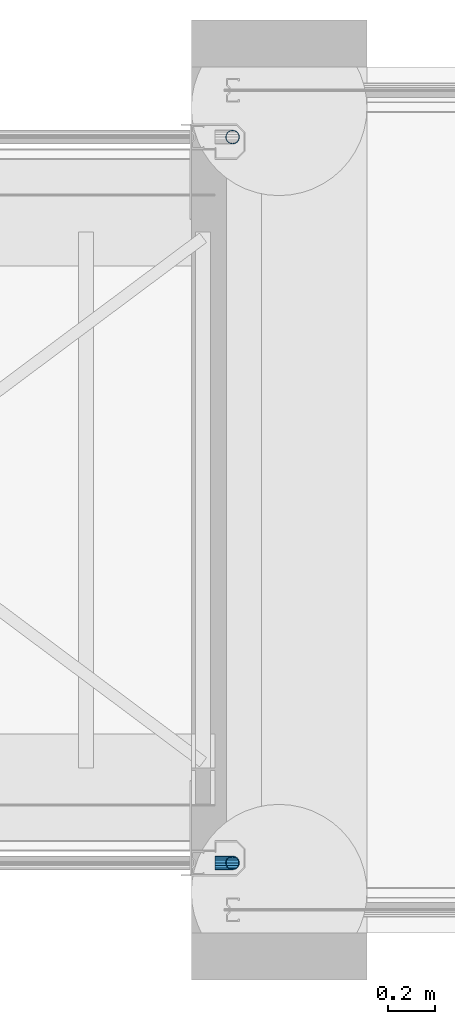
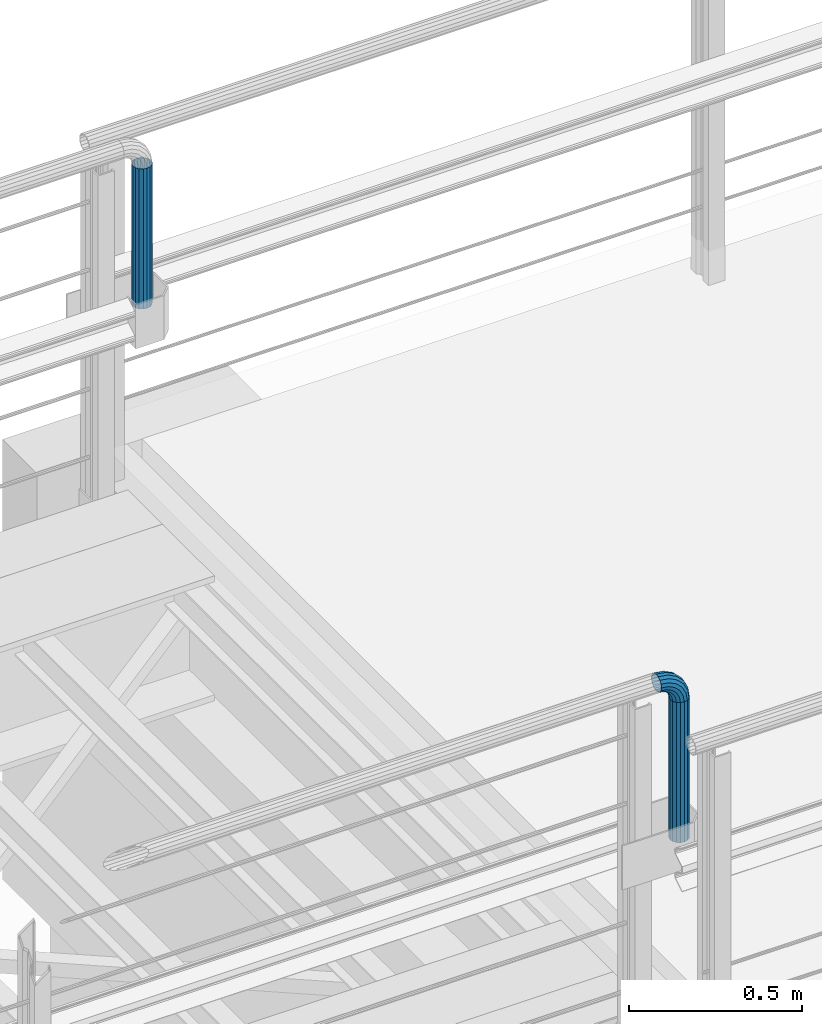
# One storey, part 24 of 31: 3 beams.
"""IFC2X3 building model written with IfcOpenShell, lengths in millimetres."""

from ifc_helpers import new_model, si_unit, frame, origin_with_axes, place, context, subcontext, project, spatial, faceted_brep, material, type_object, element, save


model = new_model("IFC2X3")

# Units and contexts
model_context = context("Model", 3, precision=1e-05, world=origin_with_axes())
body_context = subcontext(model_context, "Body", "Model", "MODEL_VIEW")
ifc_project = project(units=[si_unit("LENGTHUNIT", "METRE", prefix="MILLI"), si_unit("AREAUNIT", "SQUARE_METRE"), si_unit("VOLUMEUNIT", "CUBIC_METRE"), si_unit("MASSUNIT", "GRAM", prefix="KILO"), si_unit("TIMEUNIT", "SECOND"), si_unit("PLANEANGLEUNIT", "RADIAN"), si_unit("SOLIDANGLEUNIT", "STERADIAN"), si_unit("THERMODYNAMICTEMPERATUREUNIT", "DEGREE_CELSIUS"), si_unit("LUMINOUSINTENSITYUNIT", "LUMEN")], contexts=[model_context])

# Site, building, storey
site_placement = place(None, origin_with_axes())
site = spatial("IfcSite", under=ifc_project, at=site_placement, Name="Undefined", CompositionType="ELEMENT")
building_placement = place(site_placement, origin_with_axes())
building = spatial("IfcBuilding", under=site, at=building_placement, Name="Undefined", CompositionType="ELEMENT")
storey_placement = place(building_placement, origin_with_axes())
storey = spatial("IfcBuildingStorey", under=building, at=storey_placement, Name="Undefined", CompositionType="ELEMENT", Elevation=0.0)

# Beams
ifc_material = material(Name="STEEL/S355J2+N")
beam_type = type_object("IfcBeamType", Name="CFCHS60.3*3.2", PredefinedType="NOTDEFINED")
beam_1_placement = place(storey_placement, frame((19576.0, -400.0, 1093.85), z_axis=(0.0, -1.0, 0.0), x_axis=(0.0, 0.0, -1.0)))
element("IfcBeam", 1, at=beam_1_placement, inside=storey, type_object=beam_type, material=ifc_material, Name="REKKVERK", context=body_context, shape_type="Brep", body=[
    faceted_brep([(0.0, -26.95, 0.0), (0.0, -24.898553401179, 10.3133185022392), (493.85, -24.8985534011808, 10.3133185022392), (493.85, -26.9500000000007, 0.0), (0.0, -19.0565277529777, 19.0565277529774), (493.85, -19.0565277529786, 19.0565277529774), (0.0, -10.3133185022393, 24.8985534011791), (493.85, -10.313318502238, 24.8985534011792), (0.0, 0.0, 26.95), (493.85, 0.0, 26.95), (0.0, 10.3133185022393, 24.8985534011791), (493.85, 10.313318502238, 24.8985534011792), (0.0, 19.0565277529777, 19.0565277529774), (493.85, 19.0565277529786, 19.0565277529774), (0.0, 24.898553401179, 10.3133185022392), (493.85, 24.8985534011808, 10.3133185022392), (0.0, 26.95, 0.0), (493.85, 26.9500000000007, 0.0), (0.0, 24.898553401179, -10.3133185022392), (493.85, 24.8985534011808, -10.3133185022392), (0.0, 19.0565277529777, -19.0565277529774), (493.85, 19.0565277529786, -19.0565277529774), (0.0, 10.3133185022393, -24.8985534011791), (493.85, 10.313318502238, -24.8985534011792), (0.0, 0.0, -26.95), (493.85, 0.0, -26.95), (0.0, -10.3133185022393, -24.8985534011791), (493.85, -10.313318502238, -24.8985534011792), (0.0, -19.0565277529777, -19.0565277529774), (493.85, -19.0565277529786, -19.0565277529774), (0.0, -24.898553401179, -10.3133185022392), (493.85, -24.8985534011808, -10.3133185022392), (0.0, -30.15, 0.0), (0.0, -27.8549679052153, -11.5379054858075), (493.85, -27.8549679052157, -11.5379054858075), (493.85, -30.1500000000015, 0.0), (0.0, -21.3192694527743, -21.3192694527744), (493.85, -21.3192694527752, -21.3192694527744), (0.0, -11.5379054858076, -27.8549679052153), (493.85, -11.5379054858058, -27.8549679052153), (0.0, 0.0, -30.15), (493.85, 0.0, -30.15), (0.0, 11.5379054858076, -27.8549679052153), (493.85, 11.5379054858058, -27.8549679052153), (0.0, 21.3192694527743, -21.3192694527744), (493.85, 21.3192694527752, -21.3192694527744), (0.0, 27.8549679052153, -11.5379054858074), (493.85, 27.8549679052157, -11.5379054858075), (0.0, 30.15, 0.0), (493.85, 30.1500000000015, 0.0), (0.0, 27.8549679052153, 11.5379054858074), (493.85, 27.8549679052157, 11.5379054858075), (0.0, 21.3192694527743, 21.3192694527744), (493.85, 21.3192694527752, 21.3192694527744), (0.0, 11.5379054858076, 27.8549679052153), (493.85, 11.5379054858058, 27.8549679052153), (0.0, 0.0, 30.15), (493.85, 0.0, 30.15), (0.0, -11.5379054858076, 27.8549679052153), (493.85, -11.5379054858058, 27.8549679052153), (0.0, -21.3192694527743, 21.3192694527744), (493.85, -21.3192694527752, 21.3192694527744), (0.0, -27.8549679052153, 11.5379054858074), (493.85, -27.8549679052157, 11.5379054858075)], [[[0, 1, 2, 3]], [[1, 4, 5, 2]], [[4, 6, 7, 5]], [[6, 8, 9, 7]], [[8, 10, 11, 9]], [[10, 12, 13, 11]], [[12, 14, 15, 13]], [[14, 16, 17, 15]], [[16, 18, 19, 17]], [[18, 20, 21, 19]], [[20, 22, 23, 21]], [[22, 24, 25, 23]], [[24, 26, 27, 25]], [[26, 28, 29, 27]], [[28, 30, 31, 29]], [[30, 0, 3, 31]], [[32, 33, 34, 35]], [[33, 36, 37, 34]], [[36, 38, 39, 37]], [[38, 40, 41, 39]], [[40, 42, 43, 41]], [[42, 44, 45, 43]], [[44, 46, 47, 45]], [[46, 48, 49, 47]], [[48, 50, 51, 49]], [[50, 52, 53, 51]], [[52, 54, 55, 53]], [[54, 56, 57, 55]], [[56, 58, 59, 57]], [[58, 60, 61, 59]], [[60, 62, 63, 61]], [[62, 32, 35, 63]], [[37, 39, 41, 43, 45, 47, 49, 51, 53, 55, 57, 59, 61, 63, 35, 34], [5, 7, 9, 11, 13, 15, 17, 19, 21, 23, 25, 27, 29, 31, 3, 2]], [[62, 60, 58, 56, 54, 52, 50, 48, 46, 44, 42, 40, 38, 36, 33, 32], [30, 28, 26, 24, 22, 20, 18, 16, 14, 12, 10, 8, 6, 4, 1, 0]]]),
])
beam_2_placement = place(storey_placement, frame((19500.0, -400.0, 1169.85), z_axis=(1.0, 0.0, 0.0), x_axis=(0.0, 0.0, -1.0)))
element("IfcBeam", 2, at=beam_2_placement, inside=storey, type_object=beam_type, material=ifc_material, Name="REKKVERK", context=body_context, shape_type="Brep", body=[
    faceted_brep([(11.5379054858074, -27.8549679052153, 0.0), (21.3192694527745, -21.3192694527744, 0.0), (23.9955348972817, -21.3192694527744, 16.8972750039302), (14.6929049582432, -27.8549679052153, 19.9198826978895), (31.7623597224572, -21.3192694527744, 32.1405270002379), (23.8490700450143, -27.8549679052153, 37.8898684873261), (43.8594729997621, -21.3192694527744, 44.2376402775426), (38.1101315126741, -27.8549679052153, 52.1509299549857), (59.10272499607, -21.3192694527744, 52.0044651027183), (56.0801173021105, -27.8549679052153, 61.3070950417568), (47.7010601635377, -11.5379054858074, 38.9501491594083), (61.1223668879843, -11.5379054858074, 45.7886465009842), (37.0498508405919, -11.5379054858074, 28.2989398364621), (30.2113534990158, -11.5379054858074, 14.8776331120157), (27.8549679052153, -11.5379054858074, 0.0), (30.1500000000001, 0.0, 0.0), (32.3940587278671, 0.0, 14.1684291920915), (38.9065708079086, 0.0, 26.9499538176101), (49.0500461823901, 0.0, 37.0934291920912), (61.8315708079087, 0.0, 43.6059412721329), (47.7010601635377, 11.5379054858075, 38.9501491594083), (61.1223668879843, 11.5379054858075, 45.7886465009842), (37.0498508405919, 11.5379054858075, 28.2989398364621), (30.2113534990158, 11.5379054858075, 14.8776331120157), (27.8549679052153, 11.5379054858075, 0.0), (21.3192694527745, 21.3192694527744, 0.0), (23.9955348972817, 21.3192694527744, 16.8972750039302), (31.7623597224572, 21.3192694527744, 32.1405270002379), (43.8594729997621, 21.3192694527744, 44.2376402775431), (59.10272499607, 21.3192694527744, 52.0044651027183), (38.1101315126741, 27.8549679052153, 52.1509299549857), (56.0801173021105, 27.8549679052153, 61.3070950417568), (23.8490700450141, 27.8549679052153, 37.8898684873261), (14.6929049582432, 27.8549679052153, 19.9198826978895), (11.5379054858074, 27.8549679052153, 0.0), (0.0, 30.15, 0.0), (3.71970476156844, 30.15, 23.485291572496), (14.514708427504, 30.15, 44.6716791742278), (31.3283208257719, 30.15, 61.485291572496), (52.514708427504, 30.15, 72.2802952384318), (24.54651013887, 27.8549679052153, 70.8196531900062), (48.9492995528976, 27.8549679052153, 83.2534954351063), (5.18034680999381, 27.8549679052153, 51.45348986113), (-7.25349543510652, 27.8549679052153, 27.0507004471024), (-11.5379054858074, 27.8549679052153, 0.0), (-21.3192694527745, 21.3192694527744, 0.0), (-16.556125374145, 21.3192694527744, 30.0733081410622), (-2.73294286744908, 21.3192694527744, 57.2028313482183), (18.7971686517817, 21.3192694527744, 78.7329428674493), (45.9266918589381, 21.3192694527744, 92.5561253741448), (14.9555814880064, 11.5379054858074, 84.0204339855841), (43.9070499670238, 11.5379054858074, 98.7719439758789), (-8.02043398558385, 11.5379054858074, 61.0444185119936), (-22.7719439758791, 11.5379054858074, 32.0929500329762), (-27.8549679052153, 11.5379054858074, 0.0), (-30.1500000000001, 0.0, 0.0), (-24.9546492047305, 0.0, 32.8021539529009), (-9.8771539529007, 0.0, 62.3934045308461), (13.6065954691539, 0.0, 85.8771539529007), (43.1978460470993, 0.0, 100.954649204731), (14.9555814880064, -11.5379054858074, 84.0204339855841), (43.9070499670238, -11.5379054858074, 98.7719439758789), (-8.02043398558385, -11.5379054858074, 61.0444185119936), (-22.7719439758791, -11.5379054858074, 32.0929500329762), (-27.8549679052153, -11.5379054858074, 0.0), (-21.3192694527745, -21.3192694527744, 0.0), (-16.556125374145, -21.3192694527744, 30.0733081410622), (-2.73294286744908, -21.3192694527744, 57.2028313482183), (18.7971686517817, -21.3192694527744, 78.7329428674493), (45.9266918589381, -21.3192694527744, 92.5561253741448), (24.54651013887, -27.8549679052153, 70.8196531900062), (48.9492995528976, -27.8549679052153, 83.2534954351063), (5.18034680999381, -27.8549679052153, 51.45348986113), (-7.25349543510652, -27.8549679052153, 27.0507004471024), (-11.5379054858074, -27.8549679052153, 0.0), (0.0, -30.15, 0.0), (3.71970476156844, -30.15, 23.485291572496), (14.514708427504, -30.15, 44.6716791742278), (31.3283208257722, -30.15, 61.485291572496), (52.514708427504, -30.15, 72.2802952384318), (76.0, -30.15, 76.0), (76.0, -27.8549679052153, 87.5379054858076), (76.0, -21.3192694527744, 97.3192694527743), (76.0, -11.5379054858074, 103.854967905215), (76.0, 0.0, 106.15), (76.0, 11.5379054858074, 103.854967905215), (76.0, 21.3192694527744, 97.3192694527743), (76.0, 27.8549679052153, 87.5379054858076), (76.0, 30.15, 76.0), (76.0, 27.8549679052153, 64.4620945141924), (76.0, 21.3192694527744, 54.6807305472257), (76.0, 11.5379054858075, 48.1450320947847), (76.0, 0.0, 45.8499999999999), (76.0, -11.5379054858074, 48.1450320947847), (76.0, -21.3192694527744, 54.6807305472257), (76.0, -27.8549679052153, 64.4620945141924), (10.3133185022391, -24.8985534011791, 0.0), (19.0565277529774, -19.0565277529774, 0.0), (24.8985534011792, -10.3133185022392, 0.0), (26.95, 0.0, 0.0), (24.8985534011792, 10.3133185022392, 0.0), (19.0565277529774, 19.0565277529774, 0.0), (10.3133185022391, 24.8985534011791, 0.0), (0.0, 26.95, 0.0), (-10.3133185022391, 24.8985534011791, 0.0), (-19.0565277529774, 19.0565277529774, 0.0), (-24.8985534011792, 10.3133185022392, 0.0), (-26.95, 0.0, 0.0), (-24.8985534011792, -10.3133185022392, 0.0), (-19.0565277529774, -19.0565277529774, 0.0), (-10.3133185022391, -24.8985534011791, 0.0), (0.0, -26.95, 0.0), (3.71970476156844, -26.95, 23.485291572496), (13.5282535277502, -24.8985534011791, 20.2983008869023), (21.8435396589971, -19.0565277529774, 17.5965006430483), (27.3996362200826, -10.3133185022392, 15.7912154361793), (29.3506778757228, 0.0, 15.1572835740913), (27.3996362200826, 10.3133185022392, 15.7912154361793), (21.8435396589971, 19.0565277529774, 17.5965006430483), (13.5282535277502, 24.8985534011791, 20.2983008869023), (3.71970476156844, 26.95, 23.485291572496), (-6.08884400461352, 24.8985534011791, 26.6722822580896), (-14.4041301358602, 19.0565277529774, 29.374082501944), (-19.9602266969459, 10.3133185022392, 31.1793677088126), (-21.9112683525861, 0.0, 31.8132995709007), (-19.9602266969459, -10.3133185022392, 31.1793677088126), (-14.4041301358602, -19.0565277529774, 29.374082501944), (-6.08884400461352, -24.8985534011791, 26.6722822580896), (6.17105849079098, -24.8985534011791, 50.7336956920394), (14.514708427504, -26.95, 44.6716791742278), (22.8583583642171, -24.8985534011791, 38.6096626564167), (29.9317632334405, -19.0565277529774, 33.4705332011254), (34.6580612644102, -10.3133185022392, 30.0366766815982), (36.3177164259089, 0.0, 28.8308666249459), (34.6580612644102, 10.3133185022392, 30.0366766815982), (29.9317632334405, 19.0565277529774, 33.4705332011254), (22.8583583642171, 24.8985534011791, 38.6096626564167), (14.514708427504, 26.95, 44.6716791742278), (6.17105849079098, 24.8985534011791, 50.7336956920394), (-0.90234637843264, 19.0565277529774, 55.8728251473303), (-5.62864440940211, 10.3133185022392, 59.3066816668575), (-7.28829957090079, 0.0, 60.5124917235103), (-5.62864440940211, -10.3133185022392, 59.3066816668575), (-0.90234637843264, -19.0565277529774, 55.8728251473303), (20.1271748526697, -19.0565277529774, 76.9023463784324), (25.2663043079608, -24.8985534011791, 69.828941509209), (31.3283208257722, -26.95, 61.485291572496), (37.3903373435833, -24.8985534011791, 53.1416416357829), (42.5294667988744, -19.0565277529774, 46.0682367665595), (45.9633233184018, -10.3133185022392, 41.3419387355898), (47.1691333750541, 0.0, 39.6822835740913), (45.9633233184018, 10.3133185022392, 41.3419387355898), (42.5294667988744, 19.0565277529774, 46.0682367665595), (37.3903373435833, 24.8985534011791, 53.1416416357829), (31.3283208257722, 26.95, 61.485291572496), (25.2663043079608, 24.8985534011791, 69.828941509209), (20.1271748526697, 19.0565277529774, 76.9023463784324), (16.6933183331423, 10.3133185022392, 81.6286444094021), (15.48750827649, 0.0, 83.288299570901), (16.6933183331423, -10.3133185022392, 81.6286444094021), (44.8206322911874, -10.3133185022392, 95.9602266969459), (46.6259174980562, -19.0565277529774, 90.4041301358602), (49.3277177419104, -24.8985534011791, 82.0888440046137), (52.514708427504, -26.95, 72.2802952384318), (55.7016991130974, -24.8985534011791, 62.4717464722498), (58.4034993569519, -19.0565277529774, 54.1564603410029), (60.2087845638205, -10.3133185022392, 48.6003637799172), (60.8427164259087, 0.0, 46.6493221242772), (60.2087845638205, 10.3133185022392, 48.6003637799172), (58.4034993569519, 19.0565277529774, 54.1564603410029), (55.7016991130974, 24.8985534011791, 62.4717464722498), (52.514708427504, 26.95, 72.2802952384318), (49.3277177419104, 24.8985534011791, 82.0888440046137), (46.6259174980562, 19.0565277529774, 90.4041301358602), (44.8206322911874, 10.3133185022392, 95.9602266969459), (44.1867004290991, 0.0, 97.9112683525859), (76.0, 0.0, 102.95), (76.0, -10.3133185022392, 100.898553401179), (76.0, -19.0565277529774, 95.0565277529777), (76.0, -24.8985534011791, 86.3133185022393), (76.0, -26.95, 76.0), (76.0, -24.8985534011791, 65.6866814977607), (76.0, -19.0565277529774, 56.9434722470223), (76.0, -10.3133185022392, 51.101446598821), (76.0, 0.0, 49.0500000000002), (76.0, 10.3133185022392, 51.101446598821), (76.0, 19.0565277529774, 56.9434722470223), (76.0, 24.8985534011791, 65.6866814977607), (76.0, 26.95, 76.0), (76.0, 24.8985534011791, 86.3133185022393), (76.0, 19.0565277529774, 95.0565277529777), (76.0, 10.3133185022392, 100.898553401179)], [[[0, 1, 2, 3]], [[3, 2, 4, 5]], [[5, 4, 6, 7]], [[7, 6, 8, 9]], [[6, 10, 11, 8]], [[4, 12, 10, 6]], [[2, 13, 12, 4]], [[1, 14, 13, 2]], [[14, 15, 16, 13]], [[13, 16, 17, 12]], [[12, 17, 18, 10]], [[10, 18, 19, 11]], [[18, 20, 21, 19]], [[17, 22, 20, 18]], [[16, 23, 22, 17]], [[15, 24, 23, 16]], [[24, 25, 26, 23]], [[23, 26, 27, 22]], [[22, 27, 28, 20]], [[20, 28, 29, 21]], [[28, 30, 31, 29]], [[27, 32, 30, 28]], [[26, 33, 32, 27]], [[25, 34, 33, 26]], [[34, 35, 36, 33]], [[33, 36, 37, 32]], [[32, 37, 38, 30]], [[30, 38, 39, 31]], [[38, 40, 41, 39]], [[37, 42, 40, 38]], [[36, 43, 42, 37]], [[35, 44, 43, 36]], [[44, 45, 46, 43]], [[43, 46, 47, 42]], [[42, 47, 48, 40]], [[40, 48, 49, 41]], [[48, 50, 51, 49]], [[47, 52, 50, 48]], [[46, 53, 52, 47]], [[45, 54, 53, 46]], [[54, 55, 56, 53]], [[53, 56, 57, 52]], [[52, 57, 58, 50]], [[50, 58, 59, 51]], [[58, 60, 61, 59]], [[57, 62, 60, 58]], [[56, 63, 62, 57]], [[55, 64, 63, 56]], [[64, 65, 66, 63]], [[63, 66, 67, 62]], [[62, 67, 68, 60]], [[60, 68, 69, 61]], [[68, 70, 71, 69]], [[67, 72, 70, 68]], [[66, 73, 72, 67]], [[65, 74, 73, 66]], [[74, 75, 76, 73]], [[73, 76, 77, 72]], [[72, 77, 78, 70]], [[70, 78, 79, 71]], [[71, 79, 80, 81]], [[69, 71, 81, 82]], [[61, 69, 82, 83]], [[59, 61, 83, 84]], [[51, 59, 84, 85]], [[49, 51, 85, 86]], [[41, 49, 86, 87]], [[39, 41, 87, 88]], [[31, 39, 88, 89]], [[29, 31, 89, 90]], [[21, 29, 90, 91]], [[19, 21, 91, 92]], [[11, 19, 92, 93]], [[8, 11, 93, 94]], [[9, 8, 94, 95]], [[79, 9, 95, 80]], [[78, 7, 9, 79]], [[77, 5, 7, 78]], [[76, 3, 5, 77]], [[75, 0, 3, 76]], [[74, 65, 64, 55, 54, 45, 44, 35, 34, 25, 24, 15, 14, 1, 0, 75], [96, 97, 98, 99, 100, 101, 102, 103, 104, 105, 106, 107, 108, 109, 110, 111]], [[96, 111, 112, 113]], [[97, 96, 113, 114]], [[98, 97, 114, 115]], [[99, 98, 115, 116]], [[100, 99, 116, 117]], [[101, 100, 117, 118]], [[102, 101, 118, 119]], [[103, 102, 119, 120]], [[104, 103, 120, 121]], [[105, 104, 121, 122]], [[106, 105, 122, 123]], [[107, 106, 123, 124]], [[108, 107, 124, 125]], [[109, 108, 125, 126]], [[110, 109, 126, 127]], [[111, 110, 127, 112]], [[112, 127, 128, 129]], [[113, 112, 129, 130]], [[114, 113, 130, 131]], [[115, 114, 131, 132]], [[116, 115, 132, 133]], [[117, 116, 133, 134]], [[118, 117, 134, 135]], [[119, 118, 135, 136]], [[120, 119, 136, 137]], [[121, 120, 137, 138]], [[122, 121, 138, 139]], [[123, 122, 139, 140]], [[124, 123, 140, 141]], [[125, 124, 141, 142]], [[126, 125, 142, 143]], [[127, 126, 143, 128]], [[128, 143, 144, 145]], [[129, 128, 145, 146]], [[130, 129, 146, 147]], [[131, 130, 147, 148]], [[132, 131, 148, 149]], [[133, 132, 149, 150]], [[134, 133, 150, 151]], [[135, 134, 151, 152]], [[136, 135, 152, 153]], [[137, 136, 153, 154]], [[138, 137, 154, 155]], [[139, 138, 155, 156]], [[140, 139, 156, 157]], [[141, 140, 157, 158]], [[142, 141, 158, 159]], [[143, 142, 159, 144]], [[144, 159, 160, 161]], [[145, 144, 161, 162]], [[146, 145, 162, 163]], [[147, 146, 163, 164]], [[148, 147, 164, 165]], [[149, 148, 165, 166]], [[150, 149, 166, 167]], [[151, 150, 167, 168]], [[152, 151, 168, 169]], [[153, 152, 169, 170]], [[154, 153, 170, 171]], [[155, 154, 171, 172]], [[156, 155, 172, 173]], [[157, 156, 173, 174]], [[158, 157, 174, 175]], [[159, 158, 175, 160]], [[160, 175, 176, 177]], [[161, 160, 177, 178]], [[162, 161, 178, 179]], [[163, 162, 179, 180]], [[164, 163, 180, 181]], [[165, 164, 181, 182]], [[166, 165, 182, 183]], [[167, 166, 183, 184]], [[168, 167, 184, 185]], [[169, 168, 185, 186]], [[170, 169, 186, 187]], [[171, 170, 187, 188]], [[172, 171, 188, 189]], [[173, 172, 189, 190]], [[174, 173, 190, 191]], [[175, 174, 191, 176]], [[82, 81, 80, 95, 94, 93, 92, 91, 90, 89, 88, 87, 86, 85, 84, 83], [190, 189, 188, 187, 186, 185, 184, 183, 182, 181, 180, 179, 178, 177, 176, 191]]]),
])
beam_3_placement = place(storey_placement, frame((19576.0, 2700.0, 1093.85), z_axis=(0.0, -1.0, 0.0), x_axis=(0.0, 0.0, -1.0)))
element("IfcBeam", 3, at=beam_3_placement, inside=storey, type_object=beam_type, material=ifc_material, Name="REKKVERK", context=body_context, shape_type="Brep", body=[
    faceted_brep([(0.0, -26.95, 0.0), (0.0, -24.898553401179, 10.3133185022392), (493.85, -24.8985534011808, 10.3133185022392), (493.85, -26.9500000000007, 0.0), (0.0, -19.0565277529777, 19.0565277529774), (493.85, -19.0565277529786, 19.0565277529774), (0.0, -10.3133185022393, 24.8985534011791), (493.85, -10.313318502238, 24.8985534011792), (0.0, 0.0, 26.95), (493.85, 0.0, 26.95), (0.0, 10.3133185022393, 24.8985534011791), (493.85, 10.313318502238, 24.8985534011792), (0.0, 19.0565277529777, 19.0565277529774), (493.85, 19.0565277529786, 19.0565277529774), (0.0, 24.898553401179, 10.3133185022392), (493.85, 24.8985534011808, 10.3133185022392), (0.0, 26.95, 0.0), (493.85, 26.9500000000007, 0.0), (0.0, 24.898553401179, -10.3133185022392), (493.85, 24.8985534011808, -10.3133185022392), (0.0, 19.0565277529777, -19.0565277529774), (493.85, 19.0565277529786, -19.0565277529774), (0.0, 10.3133185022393, -24.8985534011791), (493.85, 10.313318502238, -24.8985534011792), (0.0, 0.0, -26.95), (493.85, 0.0, -26.95), (0.0, -10.3133185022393, -24.8985534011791), (493.85, -10.313318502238, -24.8985534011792), (0.0, -19.0565277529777, -19.0565277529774), (493.85, -19.0565277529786, -19.0565277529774), (0.0, -24.898553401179, -10.3133185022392), (493.85, -24.8985534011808, -10.3133185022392), (0.0, -30.15, 0.0), (0.0, -27.8549679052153, -11.5379054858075), (493.85, -27.8549679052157, -11.5379054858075), (493.85, -30.1500000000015, 0.0), (0.0, -21.3192694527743, -21.3192694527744), (493.85, -21.3192694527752, -21.3192694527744), (0.0, -11.5379054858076, -27.8549679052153), (493.85, -11.5379054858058, -27.8549679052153), (0.0, 0.0, -30.15), (493.85, 0.0, -30.15), (0.0, 11.5379054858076, -27.8549679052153), (493.85, 11.5379054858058, -27.8549679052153), (0.0, 21.3192694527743, -21.3192694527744), (493.85, 21.3192694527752, -21.3192694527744), (0.0, 27.8549679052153, -11.5379054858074), (493.85, 27.8549679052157, -11.5379054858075), (0.0, 30.15, 0.0), (493.85, 30.1500000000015, 0.0), (0.0, 27.8549679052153, 11.5379054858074), (493.85, 27.8549679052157, 11.5379054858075), (0.0, 21.3192694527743, 21.3192694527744), (493.85, 21.3192694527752, 21.3192694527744), (0.0, 11.5379054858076, 27.8549679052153), (493.85, 11.5379054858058, 27.8549679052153), (0.0, 0.0, 30.15), (493.85, 0.0, 30.15), (0.0, -11.5379054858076, 27.8549679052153), (493.85, -11.5379054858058, 27.8549679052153), (0.0, -21.3192694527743, 21.3192694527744), (493.85, -21.3192694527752, 21.3192694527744), (0.0, -27.8549679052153, 11.5379054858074), (493.85, -27.8549679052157, 11.5379054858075)], [[[0, 1, 2, 3]], [[1, 4, 5, 2]], [[4, 6, 7, 5]], [[6, 8, 9, 7]], [[8, 10, 11, 9]], [[10, 12, 13, 11]], [[12, 14, 15, 13]], [[14, 16, 17, 15]], [[16, 18, 19, 17]], [[18, 20, 21, 19]], [[20, 22, 23, 21]], [[22, 24, 25, 23]], [[24, 26, 27, 25]], [[26, 28, 29, 27]], [[28, 30, 31, 29]], [[30, 0, 3, 31]], [[32, 33, 34, 35]], [[33, 36, 37, 34]], [[36, 38, 39, 37]], [[38, 40, 41, 39]], [[40, 42, 43, 41]], [[42, 44, 45, 43]], [[44, 46, 47, 45]], [[46, 48, 49, 47]], [[48, 50, 51, 49]], [[50, 52, 53, 51]], [[52, 54, 55, 53]], [[54, 56, 57, 55]], [[56, 58, 59, 57]], [[58, 60, 61, 59]], [[60, 62, 63, 61]], [[62, 32, 35, 63]], [[37, 39, 41, 43, 45, 47, 49, 51, 53, 55, 57, 59, 61, 63, 35, 34], [5, 7, 9, 11, 13, 15, 17, 19, 21, 23, 25, 27, 29, 31, 3, 2]], [[62, 60, 58, 56, 54, 52, 50, 48, 46, 44, 42, 40, 38, 36, 33, 32], [30, 28, 26, 24, 22, 20, 18, 16, 14, 12, 10, 8, 6, 4, 1, 0]]]),
])

save(model, "model.ifc")
